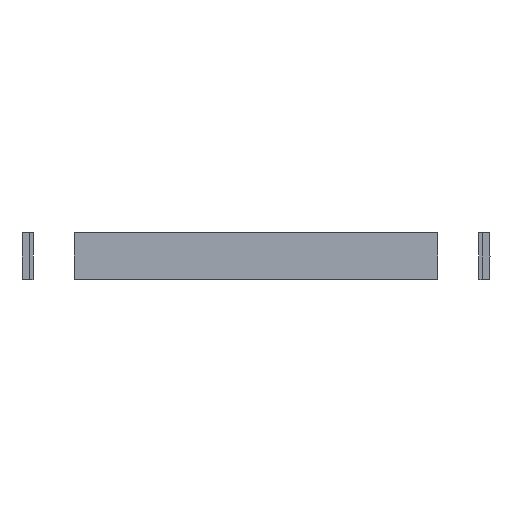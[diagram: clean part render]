
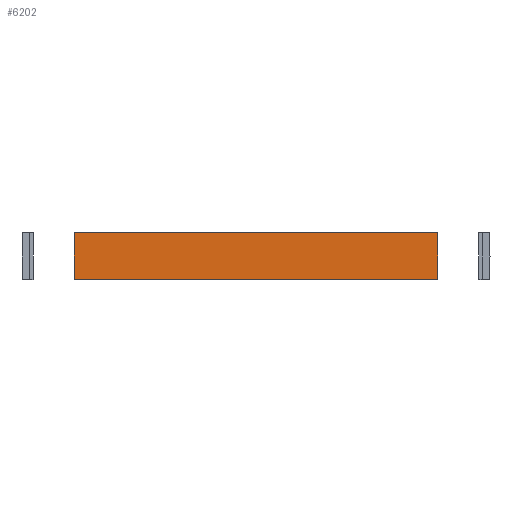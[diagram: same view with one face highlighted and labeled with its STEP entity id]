
A CAD part, top view. The second image highlights one B-rep face of the part: STEP entity #6202.
In plain terms, the highlighted planar face has unit normal (0, 0, 1).
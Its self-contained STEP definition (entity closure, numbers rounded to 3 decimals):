
#5970 = PLANE('',#5971);
#5971 = AXIS2_PLACEMENT_3D('',#5972,#5973,#5974);
#5972 = CARTESIAN_POINT('',(-80.,-6.275,0.));
#5973 = DIRECTION('',(-0.,1.,0.));
#5974 = DIRECTION('',(0.,0.,1.));
#5993 = VERTEX_POINT('',#5994);
#5994 = CARTESIAN_POINT('',(-48.5,-6.275,8.2));
#6007 = PLANE('',#6008);
#6008 = AXIS2_PLACEMENT_3D('',#6009,#6010,#6011);
#6009 = CARTESIAN_POINT('',(-48.5,-17.,0.));
#6010 = DIRECTION('',(1.,0.,-0.));
#6011 = DIRECTION('',(0.,0.,1.));
#6018 = EDGE_CURVE('',#5993,#6019,#6021,.T.);
#6019 = VERTEX_POINT('',#6020);
#6020 = CARTESIAN_POINT('',(48.5,-6.275,8.2));
#6021 = SURFACE_CURVE('',#6022,(#6026,#6032),.PCURVE_S1.);
#6022 = LINE('',#6023,#6024);
#6023 = CARTESIAN_POINT('',(-9.75,-6.275,8.2));
#6024 = VECTOR('',#6025,1.);
#6025 = DIRECTION('',(1.,0.,-0.));
#6026 = PCURVE('',#5970,#6027);
#6027 = DEFINITIONAL_REPRESENTATION('',(#6028),#6031);
#6028 = B_SPLINE_CURVE_WITH_KNOTS('',1,(#6029,#6030),.UNSPECIFIED.,.F.,
  .F.,(2,2),(-53.447,71.165),.PIECEWISE_BEZIER_KNOTS.);
#6029 = CARTESIAN_POINT('',(8.2,16.803));
#6030 = CARTESIAN_POINT('',(8.2,141.415));
#6031 = ( GEOMETRIC_REPRESENTATION_CONTEXT(2) 
PARAMETRIC_REPRESENTATION_CONTEXT() REPRESENTATION_CONTEXT('2D SPACE',''
  ) );
#6032 = PCURVE('',#6033,#6038);
#6033 = PLANE('',#6034);
#6034 = AXIS2_PLACEMENT_3D('',#6035,#6036,#6037);
#6035 = CARTESIAN_POINT('',(60.5,0.,8.2));
#6036 = DIRECTION('',(0.,0.,1.));
#6037 = DIRECTION('',(-0.99,0.141,0.));
#6038 = DEFINITIONAL_REPRESENTATION('',(#6039),#6042);
#6039 = B_SPLINE_CURVE_WITH_KNOTS('',1,(#6040,#6041),.UNSPECIFIED.,.F.,
  .F.,(2,2),(-53.447,71.165),.PIECEWISE_BEZIER_KNOTS.);
#6040 = CARTESIAN_POINT('',(121.587,23.601));
#6041 = CARTESIAN_POINT('',(-1.788,6.084));
#6042 = ( GEOMETRIC_REPRESENTATION_CONTEXT(2) 
PARAMETRIC_REPRESENTATION_CONTEXT() REPRESENTATION_CONTEXT('2D SPACE',''
  ) );
#6057 = PLANE('',#6058);
#6058 = AXIS2_PLACEMENT_3D('',#6059,#6060,#6061);
#6059 = CARTESIAN_POINT('',(48.5,-17.,0.));
#6060 = DIRECTION('',(1.,0.,-0.));
#6061 = DIRECTION('',(0.,0.,1.));
#6094 = VERTEX_POINT('',#6095);
#6095 = CARTESIAN_POINT('',(-48.5,6.275,8.2));
#6108 = PLANE('',#6109);
#6109 = AXIS2_PLACEMENT_3D('',#6110,#6111,#6112);
#6110 = CARTESIAN_POINT('',(-80.,6.275,0.));
#6111 = DIRECTION('',(-0.,1.,0.));
#6112 = DIRECTION('',(0.,0.,1.));
#6119 = EDGE_CURVE('',#5993,#6094,#6120,.T.);
#6120 = SURFACE_CURVE('',#6121,(#6125,#6131),.PCURVE_S1.);
#6121 = LINE('',#6122,#6123);
#6122 = CARTESIAN_POINT('',(-48.5,-8.5,8.2));
#6123 = VECTOR('',#6124,1.);
#6124 = DIRECTION('',(-0.,1.,0.));
#6125 = PCURVE('',#6007,#6126);
#6126 = DEFINITIONAL_REPRESENTATION('',(#6127),#6130);
#6127 = B_SPLINE_CURVE_WITH_KNOTS('',1,(#6128,#6129),.UNSPECIFIED.,.F.,
  .F.,(2,2),(-8.5,25.5),.PIECEWISE_BEZIER_KNOTS.);
#6128 = CARTESIAN_POINT('',(8.2,0.));
#6129 = CARTESIAN_POINT('',(8.2,-34.));
#6130 = ( GEOMETRIC_REPRESENTATION_CONTEXT(2) 
PARAMETRIC_REPRESENTATION_CONTEXT() REPRESENTATION_CONTEXT('2D SPACE',''
  ) );
#6131 = PCURVE('',#6033,#6132);
#6132 = DEFINITIONAL_REPRESENTATION('',(#6133),#6136);
#6133 = B_SPLINE_CURVE_WITH_KNOTS('',1,(#6134,#6135),.UNSPECIFIED.,.F.,
  .F.,(2,2),(-8.5,25.5),.PIECEWISE_BEZIER_KNOTS.);
#6134 = CARTESIAN_POINT('',(105.528,32.153));
#6135 = CARTESIAN_POINT('',(110.307,-1.509));
#6136 = ( GEOMETRIC_REPRESENTATION_CONTEXT(2) 
PARAMETRIC_REPRESENTATION_CONTEXT() REPRESENTATION_CONTEXT('2D SPACE',''
  ) );
#6163 = EDGE_CURVE('',#6094,#6164,#6166,.T.);
#6164 = VERTEX_POINT('',#6165);
#6165 = CARTESIAN_POINT('',(48.5,6.275,8.2));
#6166 = SURFACE_CURVE('',#6167,(#6171,#6177),.PCURVE_S1.);
#6167 = LINE('',#6168,#6169);
#6168 = CARTESIAN_POINT('',(-9.75,6.275,8.2));
#6169 = VECTOR('',#6170,1.);
#6170 = DIRECTION('',(1.,0.,-0.));
#6171 = PCURVE('',#6108,#6172);
#6172 = DEFINITIONAL_REPRESENTATION('',(#6173),#6176);
#6173 = B_SPLINE_CURVE_WITH_KNOTS('',1,(#6174,#6175),.UNSPECIFIED.,.F.,
  .F.,(2,2),(-51.665,72.947),.PIECEWISE_BEZIER_KNOTS.);
#6174 = CARTESIAN_POINT('',(8.2,18.585));
#6175 = CARTESIAN_POINT('',(8.2,143.197));
#6176 = ( GEOMETRIC_REPRESENTATION_CONTEXT(2) 
PARAMETRIC_REPRESENTATION_CONTEXT() REPRESENTATION_CONTEXT('2D SPACE',''
  ) );
#6177 = PCURVE('',#6033,#6178);
#6178 = DEFINITIONAL_REPRESENTATION('',(#6179),#6182);
#6179 = B_SPLINE_CURVE_WITH_KNOTS('',1,(#6180,#6181),.UNSPECIFIED.,.F.,
  .F.,(2,2),(-51.665,72.947),.PIECEWISE_BEZIER_KNOTS.);
#6180 = CARTESIAN_POINT('',(121.587,10.925));
#6181 = CARTESIAN_POINT('',(-1.788,-6.592));
#6182 = ( GEOMETRIC_REPRESENTATION_CONTEXT(2) 
PARAMETRIC_REPRESENTATION_CONTEXT() REPRESENTATION_CONTEXT('2D SPACE',''
  ) );
#6202 = ADVANCED_FACE('',(#6203),#6033,.T.);
#6203 = FACE_BOUND('',#6204,.T.);
#6204 = EDGE_LOOP('',(#6205,#6224,#6225,#6226));
#6205 = ORIENTED_EDGE('',*,*,#6206,.T.);
#6206 = EDGE_CURVE('',#6019,#6164,#6207,.T.);
#6207 = SURFACE_CURVE('',#6208,(#6212,#6218),.PCURVE_S1.);
#6208 = LINE('',#6209,#6210);
#6209 = CARTESIAN_POINT('',(48.5,-8.5,8.2));
#6210 = VECTOR('',#6211,1.);
#6211 = DIRECTION('',(-0.,1.,0.));
#6212 = PCURVE('',#6033,#6213);
#6213 = DEFINITIONAL_REPRESENTATION('',(#6214),#6217);
#6214 = B_SPLINE_CURVE_WITH_KNOTS('',1,(#6215,#6216),.UNSPECIFIED.,.F.,
  .F.,(2,2),(-8.5,25.5),.PIECEWISE_BEZIER_KNOTS.);
#6215 = CARTESIAN_POINT('',(9.491,18.518));
#6216 = CARTESIAN_POINT('',(14.271,-15.144));
#6217 = ( GEOMETRIC_REPRESENTATION_CONTEXT(2) 
PARAMETRIC_REPRESENTATION_CONTEXT() REPRESENTATION_CONTEXT('2D SPACE',''
  ) );
#6218 = PCURVE('',#6057,#6219);
#6219 = DEFINITIONAL_REPRESENTATION('',(#6220),#6223);
#6220 = B_SPLINE_CURVE_WITH_KNOTS('',1,(#6221,#6222),.UNSPECIFIED.,.F.,
  .F.,(2,2),(-8.5,25.5),.PIECEWISE_BEZIER_KNOTS.);
#6221 = CARTESIAN_POINT('',(8.2,0.));
#6222 = CARTESIAN_POINT('',(8.2,-34.));
#6223 = ( GEOMETRIC_REPRESENTATION_CONTEXT(2) 
PARAMETRIC_REPRESENTATION_CONTEXT() REPRESENTATION_CONTEXT('2D SPACE',''
  ) );
#6224 = ORIENTED_EDGE('',*,*,#6163,.F.);
#6225 = ORIENTED_EDGE('',*,*,#6119,.F.);
#6226 = ORIENTED_EDGE('',*,*,#6018,.T.);
